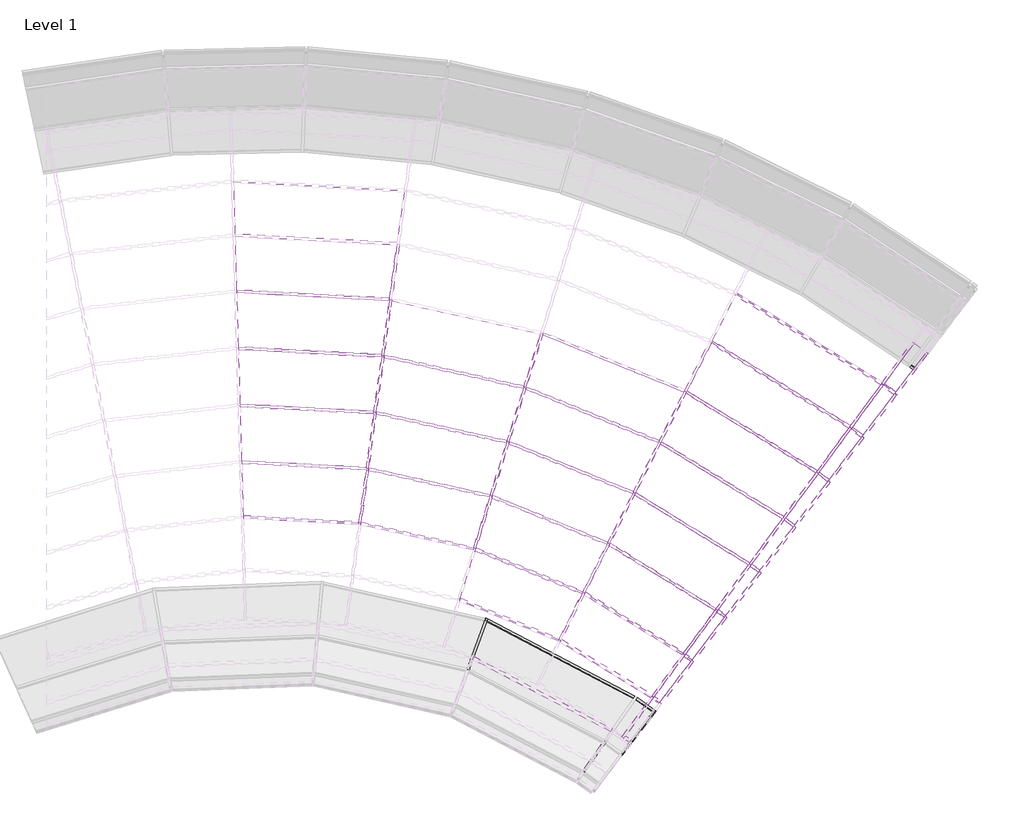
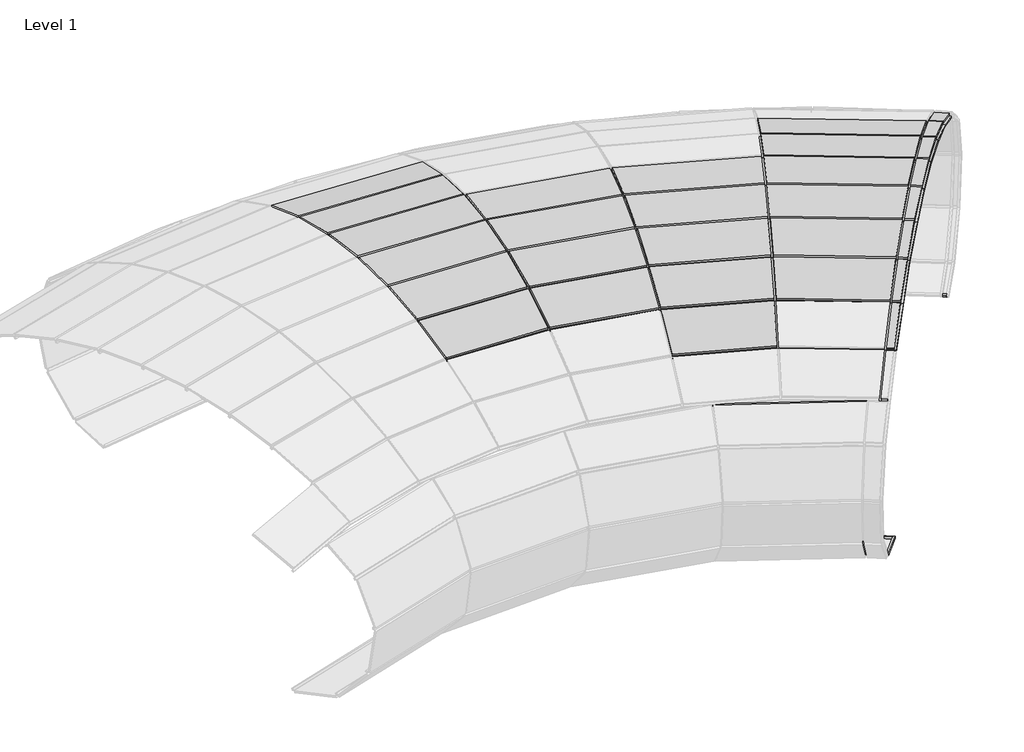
# One storey, part 11 of 23: 71 members, 29 plates.
"""IFC4 building model written with IfcOpenShell, lengths in millimetres."""

from ifc_helpers import new_model, si_unit, origin, place, context, project, spatial, transform, mapped, element, save
from components import member_d6b8231b, member_98341453, member_bff08ed3, member_9d0ecc57, member_8c9da58c, member_3a0dd7d7, member_3a6df916, member_eca8a4a2, member_088ab3f2, member_173a6c74, member_3142c306, member_0cd36c09, member_d0a40a1c, member_d0141056, member_eb56ffe8, member_dc232313, member_20936006, member_c628317b, member_691cbd0a, member_e4cc2466, member_6de91377, member_1afcac62, member_1c681369, member_9272082a, member_20199af6, member_5b501c0e, member_9a5219bf, member_20c667eb, member_7149052c, member_86ced42f, member_955aa5bb, member_c28afb9a, system_panel_glazed_aeac0244, system_panel_glazed_e7caa36a, system_panel_glazed_1a4c8fcb, system_panel_glazed_6f3b0dd0, system_panel_glazed_6963cb6b, system_panel_glazed_a0f8dd0e, system_panel_glazed_079fee55, system_panel_glazed_3a908c5d, system_panel_glazed_1b2c1e4f, system_panel_glazed_4f238078, system_panel_glazed_33c7ebbf, system_panel_glazed_cdef6847, system_panel_glazed_ea272296, system_panel_glazed_992b1f32, system_panel_glazed_8389d453

model = new_model("IFC4")

# Units and contexts
model_context = context("Model", 3, world=origin())
ifc_project = project(units=[si_unit("LENGTHUNIT", "METRE", prefix="MILLI")], contexts=[model_context])

# Site, building, storey
site = spatial("IfcSite", under=ifc_project)
building = spatial("IfcBuilding", under=site)
storey = spatial("IfcBuildingStorey", under=building, Name="Level 1", Elevation=0.0)

# Members
placement = place(None, origin())
member_shape = member_d6b8231b(model_context)
element("IfcMember", 1, ObjectType="Rectangular Mullion : 1\" Square", at=placement, inside=storey, context=model_context, shape_type="MappedRepresentation", body=[
    mapped(member_shape, transform((2290.2556299, -6685.0031769, 0.0), x_axis=(0.9387056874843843, -0.34471964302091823, 0.0), y_axis=(-0.0966241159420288, -0.2631170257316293, -0.9599131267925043), z_axis=(0.33090091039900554, 0.9010759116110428, -0.28029767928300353))),
])
member_2_shape = member_98341453(model_context)
element("IfcMember", 2, ObjectType="Rectangular Mullion : 1\" Square", at=placement, inside=storey, context=model_context, shape_type="MappedRepresentation", body=[
    mapped(member_2_shape, transform((4094.9824837, -7673.8564252, 0.0), x_axis=(0.7966275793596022, -0.6044494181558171, 0.00503991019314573), y_axis=(-0.16557604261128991, -0.22622281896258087, -0.9598998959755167), z_axis=(0.581351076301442, 0.7638482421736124, -0.28029767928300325))),
])
member_3_shape = member_bff08ed3(model_context)
element("IfcMember", 3, ObjectType="Rectangular Mullion : 1\" Square", at=placement, inside=storey, context=model_context, shape_type="MappedRepresentation", body=[
    mapped(member_3_shape, transform((2301.5056599, -6690.896124, 0.0), x_axis=(0.445109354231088, 0.8497435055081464, -0.28251307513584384), y_axis=(-0.1310893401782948, -0.25025831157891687, -0.9592634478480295), z_axis=(-0.8858291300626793, 0.46401158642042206, 0.0))),
])
member_4_shape = member_9d0ecc57(model_context)
element("IfcMember", 4, ObjectType="Rectangular Mullion : 1\" Square", at=placement, inside=storey, context=model_context, shape_type="MappedRepresentation", body=[
    mapped(member_4_shape, transform((3896.1567783, -7528.3327614, 0.0), x_axis=(0.5669356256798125, 0.7745913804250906, -0.28034298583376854), y_axis=(-0.16557604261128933, -0.2262228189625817, -0.9598998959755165), z_axis=(-0.8069501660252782, 0.5906195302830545, 0.0))),
])
member_5_shape = member_8c9da58c(model_context)
element("IfcMember", 5, ObjectType="Rectangular Mullion : 1\" Square", at=placement, inside=storey, context=model_context, shape_type="MappedRepresentation", body=[
    mapped(member_5_shape, transform((3549.2039194, -7999.4191933, 170.8694653), x_axis=(0.817870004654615, -0.5754030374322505, 0.0), y_axis=(-0.43316610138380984, -0.6156963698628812, -0.6582439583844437), z_axis=(0.37875557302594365, 0.538357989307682, -0.7528046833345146))),
])
member_6_shape = member_3a0dd7d7(model_context)
element("IfcMember", 6, ObjectType="Rectangular Mullion : 1\" Square", at=placement, inside=storey, context=model_context, shape_type="MappedRepresentation", body=[
    mapped(member_6_shape, transform((3626.4458114, -7867.7450391, 2085.6089632), x_axis=(0.37150658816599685, 0.7092309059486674, 0.5991447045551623), y_axis=(-0.2780100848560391, -0.5307398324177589, 0.8006407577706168), z_axis=(0.8858291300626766, -0.4640115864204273, 0.0))),
])
member_7_shape = member_3a6df916(model_context)
element("IfcMember", 7, ObjectType="Rectangular Mullion : 1\" Square", at=placement, inside=storey, context=model_context, shape_type="MappedRepresentation", body=[
    mapped(member_7_shape, transform((2325.1422191, -5370.4577997, 2763.3769688), x_axis=(0.21296612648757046, 0.956219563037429, 0.20072263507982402), y_axis=(-0.04363518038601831, -0.19592229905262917, 0.9796481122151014), z_axis=(0.9760847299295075, -0.21739043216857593, 0.0))),
])
element("IfcMember", 8, ObjectType="Rectangular Mullion : 1\" Square", at=placement, inside=storey, context=model_context, shape_type="MappedRepresentation", body=[
    mapped(member_7_shape, transform((3580.451597, -5876.7686495, 2763.3769688), x_axis=(0.3678494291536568, 0.9079632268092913, 0.20072263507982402), y_axis=(-0.07536962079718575, -0.18603493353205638, 0.9796481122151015), z_axis=(0.9268258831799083, -0.3754913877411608, 0.0))),
])
element("IfcMember", 9, ObjectType="Rectangular Mullion : 1\" Square", at=placement, inside=storey, context=model_context, shape_type="MappedRepresentation", body=[
    mapped(member_7_shape, transform((4734.9935766, -6583.2989946, 2763.3769688), x_axis=(0.5126454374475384, 0.8348084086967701, 0.2007226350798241), y_axis=(-0.105037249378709, -0.1710460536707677, 0.9796481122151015), z_axis=(0.8521512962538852, -0.523295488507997, 0.0))),
])
element("IfcMember", 10, ObjectType="Rectangular Mullion : 1\" Square", at=placement, inside=storey, context=model_context, shape_type="MappedRepresentation", body=[
    mapped(member_7_shape, transform((1003.4889711, -5078.2506764, 2763.3769688), x_axis=(0.05224279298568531, 0.9782541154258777, 0.20072263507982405), y_axis=(-0.010704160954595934, -0.20043701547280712, 0.9796481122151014), z_axis=(0.9985770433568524, -0.05332812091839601, 0.0))),
])
member_8_shape = member_eca8a4a2(model_context)
element("IfcMember", 11, ObjectType="Rectangular Mullion : 1\" Square", at=placement, inside=storey, context=model_context, shape_type="MappedRepresentation", body=[
    mapped(member_8_shape, transform((4836.4355375, -6657.7087757, 2763.3769688), x_axis=(0.5866174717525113, 0.7844743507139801, 0.20119625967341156), y_axis=(-0.12048912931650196, -0.1611282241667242, 0.9795509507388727), z_axis=(0.8008509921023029, -0.5988636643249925, 0.0))),
])
member_9_shape = member_088ab3f2(model_context)
element("IfcMember", 12, ObjectType="Rectangular Mullion : 1\" Square", at=placement, inside=storey, context=model_context, shape_type="MappedRepresentation", body=[
    mapped(member_9_shape, transform((1085.4446195, -4480.4538718, 2850.17796), x_axis=(0.053143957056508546, 0.995128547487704, 0.08303549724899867), y_axis=(-0.004428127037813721, -0.08291734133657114, 0.996546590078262), z_axis=(0.9985770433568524, -0.05332812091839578, 0.0))),
])
element("IfcMember", 13, ObjectType="Rectangular Mullion : 1\" Square", at=placement, inside=storey, context=model_context, shape_type="MappedRepresentation", body=[
    mapped(member_9_shape, transform((2504.6275681, -4794.3824943, 2850.17796), x_axis=(0.2166396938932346, 0.9727139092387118, 0.08303549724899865), y_axis=(-0.01805112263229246, -0.08104968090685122, 0.996546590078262), z_axis=(0.9760847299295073, -0.21739043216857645, 0.0))),
])
element("IfcMember", 14, ObjectType="Rectangular Mullion : 1\" Square", at=placement, inside=storey, context=model_context, shape_type="MappedRepresentation", body=[
    mapped(member_9_shape, transform((3852.5447372, -5338.2121799, 2850.17796), x_axis=(0.3741946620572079, 0.9236251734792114, 0.08303549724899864), y_axis=(-0.03117911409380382, -0.07695944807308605, 0.9965465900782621), z_axis=(0.9268258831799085, -0.3754913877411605, 0.0))),
])
element("IfcMember", 15, ObjectType="Rectangular Mullion : 1\" Square", at=placement, inside=storey, context=model_context, shape_type="MappedRepresentation", body=[
    mapped(member_9_shape, transform((5092.2330757, -6097.0298425, 2850.17796), x_axis=(0.5214883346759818, 0.8492084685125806, 0.08303549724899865), y_axis=(-0.043452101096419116, -0.07075880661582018, 0.996546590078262), z_axis=(0.8521512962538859, -0.5232954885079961, 0.0))),
])
member_10_shape = member_173a6c74(model_context)
element("IfcMember", 16, ObjectType="Rectangular Mullion : 1\" Square", at=placement, inside=storey, context=model_context, shape_type="MappedRepresentation", body=[
    mapped(member_10_shape, transform((5958.7937864, -5224.9592865, 2806.2019711), x_axis=(0.7959799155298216, -0.6053204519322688, 0.0017676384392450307), y_axis=(0.12786350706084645, 0.17098986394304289, 0.9769408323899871), z_axis=(-0.5916645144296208, -0.7773992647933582, 0.21350289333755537))),
])
element("IfcMember", 17, ObjectType="Rectangular Mullion : 1\" Square", at=placement, inside=storey, context=model_context, shape_type="MappedRepresentation", body=[
    mapped(member_10_shape, transform((6319.4724744, -4751.0566947, 2676.0506073), x_axis=(0.7962973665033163, -0.6048996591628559, 0.0026280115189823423), y_axis=(0.19661369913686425, 0.26292841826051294, 0.9445695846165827), z_axis=(-0.5720607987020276, -0.7516415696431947, 0.32830076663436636))),
])
member_11_shape = member_3142c306(model_context)
element("IfcMember", 18, ObjectType="Rectangular Mullion : 1\" Square", at=placement, inside=storey, context=model_context, shape_type="MappedRepresentation", body=[
    mapped(member_11_shape, transform((6668.2007373, -4292.8559938, 2475.91846), x_axis=(0.7967283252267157, -0.6043284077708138, 0.0033393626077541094), y_axis=(0.26256629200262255, 0.35112578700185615, 0.8987600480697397), z_axis=(-0.544318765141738, -0.7151907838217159, 0.43842812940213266))),
])
member_12_shape = member_0cd36c09(model_context)
element("IfcMember", 19, ObjectType="Rectangular Mullion : 1\" Square", at=placement, inside=storey, context=model_context, shape_type="MappedRepresentation", body=[
    mapped(member_12_shape, transform((1263.3224971, -3276.1670819, 2806.2019711), x_axis=(0.9907327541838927, -0.13582565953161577, 0.0), y_axis=(0.02899917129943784, 0.21152430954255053, 0.9769424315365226), z_axis=(-0.1326938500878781, -0.9678888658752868, 0.2135028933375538))),
])
element("IfcMember", 20, ObjectType="Rectangular Mullion : 1\" Square", at=placement, inside=storey, context=model_context, shape_type="MappedRepresentation", body=[
    mapped(member_12_shape, transform((4412.7667584, -4257.426124, 2806.2019711), x_axis=(0.8925533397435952, -0.4509418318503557, 0.0), y_axis=(0.09627738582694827, 0.19056272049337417, 0.9769424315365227), z_axis=(-0.4405442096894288, -0.8719732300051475, 0.21350289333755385))),
])
element("IfcMember", 21, ObjectType="Rectangular Mullion : 1\" Square", at=placement, inside=storey, context=model_context, shape_type="MappedRepresentation", body=[
    mapped(member_12_shape, transform((5823.1341142, -5123.5151362, 2806.2019711), x_axis=(0.8058972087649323, -0.5920554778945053, 0.0), y_axis=(0.1264055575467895, 0.1720613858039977, 0.9769424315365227), z_axis=(-0.5784041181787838, -0.787315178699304, 0.2135028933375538))),
])
element("IfcMember", 22, ObjectType="Rectangular Mullion : 1\" Square", at=placement, inside=storey, context=model_context, shape_type="MappedRepresentation", body=[
    mapped(member_12_shape, transform((6175.7292646, -4643.5678033, 2676.0506073), x_axis=(0.8058972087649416, -0.5920554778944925, 0.0), y_axis=(0.1943722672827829, 0.264576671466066, 0.9445732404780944), z_axis=(-0.5592397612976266, -0.7612289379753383, 0.3283007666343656))),
])
member_13_shape = member_d0a40a1c(model_context)
element("IfcMember", 23, ObjectType="Rectangular Mullion : 1\" Square", at=placement, inside=storey, context=model_context, shape_type="MappedRepresentation", body=[
    mapped(member_13_shape, transform((6516.6418231, -4179.5226427, 2475.91846), x_axis=(0.805897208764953, -0.5920554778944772, 0.0), y_axis=(0.2595737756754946, 0.3533280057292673, 0.8987662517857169), z_axis=(-0.5321194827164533, -0.7243132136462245, 0.4384281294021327))),
])
element("IfcMember", 24, ObjectType="Rectangular Mullion : 1\" Square", at=placement, inside=storey, context=model_context, shape_type="MappedRepresentation", body=[
    mapped(member_12_shape, transform((936.20193, -5662.2336142, 2605.3528615), x_axis=(0.9907327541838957, -0.13582565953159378, 0.0), y_axis=(-0.035209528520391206, -0.2568235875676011, 0.9658167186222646), z_axis=(-0.13118269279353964, -0.9568662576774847, -0.259225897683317))),
])
element("IfcMember", 25, ObjectType="Rectangular Mullion : 1\" Square", at=placement, inside=storey, context=model_context, shape_type="MappedRepresentation", body=[
    mapped(member_12_shape, transform((1016.1708995, -5078.9279436, 2763.3769688), x_axis=(0.9907327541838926, -0.13582565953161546, 0.0), y_axis=(-0.01934022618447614, -0.1410705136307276, 0.9898106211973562), z_axis=(-0.13444168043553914, -0.980637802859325, -0.1423900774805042))),
])
element("IfcMember", 26, ObjectType="Rectangular Mullion : 1\" Square", at=placement, inside=storey, context=model_context, shape_type="MappedRepresentation", body=[
    mapped(member_12_shape, transform((2162.404033, -5935.3293783, 2605.3528615), x_axis=(0.9547335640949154, -0.29746230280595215, 0.0), y_axis=(-0.07710993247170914, -0.24749166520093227, 0.9658167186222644), z_axis=(-0.2872940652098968, -0.9220976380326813, -0.2592258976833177))),
])
element("IfcMember", 27, ObjectType="Rectangular Mullion : 1\" Square", at=placement, inside=storey, context=model_context, shape_type="MappedRepresentation", body=[
    mapped(member_12_shape, transform((2337.5384952, -5373.2186582, 2763.3769688), x_axis=(0.954733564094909, -0.2974623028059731, 0.0), y_axis=(-0.042355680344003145, -0.1359445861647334, 0.9898106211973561), z_axis=(-0.29443134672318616, -0.9450054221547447, -0.14239007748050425))),
])
element("IfcMember", 28, ObjectType="Rectangular Mullion : 1\" Square", at=placement, inside=storey, context=model_context, shape_type="MappedRepresentation", body=[
    mapped(member_12_shape, transform((3071.6004045, -6912.0090964, 2378.3537392), x_axis=(0.8925533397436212, -0.450941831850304, 0.0), y_axis=(-0.1679189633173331, -0.33236355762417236, 0.9280828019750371), z_axis=(-0.4185113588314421, -0.828363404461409, -0.37237388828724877))),
])
element("IfcMember", 29, ObjectType="Rectangular Mullion : 1\" Square", at=placement, inside=storey, context=model_context, shape_type="MappedRepresentation", body=[
    mapped(member_12_shape, transform((3326.7249288, -6407.038765, 2605.3528615), x_axis=(0.8925533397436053, -0.4509418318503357, 0.0), y_axis=(-0.11689580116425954, -0.2313729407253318, 0.9658167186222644), z_axis=(-0.4355271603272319, -0.8620429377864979, -0.2592258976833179))),
])
element("IfcMember", 30, ObjectType="Rectangular Mullion : 1\" Square", at=placement, inside=storey, context=model_context, shape_type="MappedRepresentation", body=[
    mapped(member_12_shape, transform((3592.2222858, -5881.5373901, 2763.3769688), x_axis=(0.8925533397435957, -0.45094183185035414, 0.0), y_axis=(-0.06420964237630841, -0.12709073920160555, 0.9898106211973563), z_axis=(-0.44634701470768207, -0.8834587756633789, -0.142390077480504))),
])
element("IfcMember", 31, ObjectType="Rectangular Mullion : 1\" Square", at=placement, inside=storey, context=model_context, shape_type="MappedRepresentation", body=[
    mapped(member_12_shape, transform((4062.2753281, -7520.3702177, 2378.3537392), x_axis=(0.8058972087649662, -0.5920554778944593, 0.0), y_axis=(-0.2204660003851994, -0.300095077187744, 0.9280828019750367), z_axis=(-0.5494765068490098, -0.7479393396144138, -0.37237388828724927))),
])
element("IfcMember", 32, ObjectType="Rectangular Mullion : 1\" Square", at=placement, inside=storey, context=model_context, shape_type="MappedRepresentation", body=[
    mapped(member_12_shape, transform((4397.2362067, -7064.4263963, 2605.3528615), x_axis=(0.8058972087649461, -0.5920554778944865, 0.0), y_axis=(-0.15347611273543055, -0.20890942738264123, 0.9658167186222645), z_axis=(-0.5718170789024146, -0.778348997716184, -0.2592258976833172))),
])
element("IfcMember", 33, ObjectType="Rectangular Mullion : 1\" Square", at=placement, inside=storey, context=model_context, shape_type="MappedRepresentation", body=[
    mapped(member_12_shape, transform((4745.815898, -6589.9448473, 2763.3769688), x_axis=(0.8058972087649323, -0.5920554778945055, 0.0), y_axis=(-0.08430282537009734, -0.11475176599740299, 0.9898106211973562), z_axis=(-0.5860228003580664, -0.797685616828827, -0.14239007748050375))),
])
element("IfcMember", 34, ObjectType="Rectangular Mullion : 1\" Square", at=placement, inside=storey, context=model_context, shape_type="MappedRepresentation", body=[
    mapped(member_12_shape, transform((1098.1265479, -4481.1311389, 2850.17796), x_axis=(0.9907327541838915, -0.13582565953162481, 0.0), y_axis=(-0.0031957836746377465, -0.02331052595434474, 0.9997231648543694), z_axis=(-0.1357880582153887, -0.9904584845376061, -0.023528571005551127))),
])
element("IfcMember", 35, ObjectType="Rectangular Mullion : 1\" Square", at=placement, inside=storey, context=model_context, shape_type="MappedRepresentation", body=[
    mapped(member_12_shape, transform((2517.0238442, -4797.1433528, 2850.17796), x_axis=(0.9547335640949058, -0.29746230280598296, 0.0), y_axis=(-0.006998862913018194, -0.02246351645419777, 0.9997231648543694), z_axis=(-0.29737995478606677, -0.9544692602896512, -0.023528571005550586))),
])
element("IfcMember", 36, ObjectType="Rectangular Mullion : 1\" Square", at=placement, inside=storey, context=model_context, shape_type="MappedRepresentation", body=[
    mapped(member_12_shape, transform((3864.3154259, -5342.9809205, 2850.17796), x_axis=(0.892553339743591, -0.4509418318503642, 0.0), y_axis=(-0.010610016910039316, -0.021000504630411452, 0.9997231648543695), z_axis=(-0.4508169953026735, -0.8923062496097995, -0.023528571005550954))),
])
element("IfcMember", 37, ObjectType="Rectangular Mullion : 1\" Square", at=placement, inside=storey, context=model_context, shape_type="MappedRepresentation", body=[
    mapped(member_12_shape, transform((5103.0553971, -6103.6756952, 2850.17796), x_axis=(0.805897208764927, -0.5920554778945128, 0.0), y_axis=(-0.013930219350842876, -0.01896160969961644, 0.9997231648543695), z_axis=(-0.5918915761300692, -0.8056741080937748, -0.02352857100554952))),
])
element("IfcMember", 38, ObjectType="Rectangular Mullion : 1\" Square", at=placement, inside=storey, context=model_context, shape_type="MappedRepresentation", body=[
    mapped(member_12_shape, transform((1180.9029482, -3877.3476468, 2864.5209769), x_axis=(0.9907327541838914, -0.1358256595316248, 0.0), y_axis=(0.012994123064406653, 0.09478108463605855, 0.9954133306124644), z_axis=(-0.13520267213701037, -0.9861885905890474, 0.09566766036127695))),
])
element("IfcMember", 39, ObjectType="Rectangular Mullion : 1\" Square", at=placement, inside=storey, context=model_context, shape_type="MappedRepresentation", body=[
    mapped(member_12_shape, transform((2698.3066646, -4215.2988917, 2864.5209769), x_axis=(0.9547335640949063, -0.2974623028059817, 0.0), y_axis=(0.028457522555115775, 0.09133712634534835, 0.9954133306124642), z_axis=(-0.2960979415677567, -0.950354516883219, 0.0956676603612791))),
])
element("IfcMember", 40, ObjectType="Rectangular Mullion : 1\" Square", at=placement, inside=storey, context=model_context, shape_type="MappedRepresentation", body=[
    mapped(member_12_shape, transform((4139.1334663, -4799.0310307, 2864.5209769), x_axis=(0.8925533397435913, -0.45094183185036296, 0.0), y_axis=(0.043140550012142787, 0.08538848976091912, 0.9954133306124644), z_axis=(-0.4488735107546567, -0.8884594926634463, 0.09566766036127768))),
])
element("IfcMember", 41, ObjectType="Rectangular Mullion : 1\" Square", at=placement, inside=storey, context=model_context, shape_type="MappedRepresentation", body=[
    mapped(member_12_shape, transform((5463.8725019, -5612.5367589, 2864.5209769), x_axis=(0.8058972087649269, -0.5920554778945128, 0.0), y_axis=(0.05664056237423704, 0.07709830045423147, 0.9954133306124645), z_axis=(-0.5893399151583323, -0.8022008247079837, 0.0956676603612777))),
])
member_14_shape = member_d0141056(model_context)
element("IfcMember", 42, ObjectType="Rectangular Mullion : 1\" Square", at=placement, inside=storey, context=model_context, shape_type="MappedRepresentation", body=[
    mapped(member_14_shape, transform((923.5200016, -5661.5563471, 2605.3528615), x_axis=(0.05060252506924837, 0.94753985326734, 0.31560673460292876), y_axis=(-0.01683071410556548, -0.3151576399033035, 0.9488900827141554), z_axis=(0.9985770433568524, -0.05332812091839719, 0.0))),
])
element("IfcMember", 43, ObjectType="Rectangular Mullion : 1\" Square", at=placement, inside=storey, context=model_context, shape_type="MappedRepresentation", body=[
    mapped(member_14_shape, transform((2150.007757, -5932.5685198, 2605.3528615), x_axis=(0.206279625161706, 0.9261971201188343, 0.3156067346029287), y_axis=(-0.06860988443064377, -0.30805891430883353, 0.9488900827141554), z_axis=(0.9760847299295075, -0.21739043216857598, 0.0))),
])
element("IfcMember", 44, ObjectType="Rectangular Mullion : 1\" Square", at=placement, inside=storey, context=model_context, shape_type="MappedRepresentation", body=[
    mapped(member_14_shape, transform((3314.9542401, -6402.2700244, 2605.3528615), x_axis=(0.35630005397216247, 0.8794558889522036, 0.3156067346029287), y_axis=(-0.11850761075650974, -0.29251249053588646, 0.9488900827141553), z_axis=(0.9268258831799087, -0.3754913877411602, 0.0))),
])
element("IfcMember", 45, ObjectType="Rectangular Mullion : 1\" Square", at=placement, inside=storey, context=model_context, shape_type="MappedRepresentation", body=[
    mapped(member_14_shape, transform((4386.4138853, -7057.7805436, 2605.3528615), x_axis=(0.4965498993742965, 0.8085979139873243, 0.31560673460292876), y_axis=(-0.16515558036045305, -0.2689446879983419, 0.9488900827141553), z_axis=(0.8521512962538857, -0.5232954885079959, 0.0))),
])
member_15_shape = member_eb56ffe8(model_context)
element("IfcMember", 46, ObjectType="Rectangular Mullion : 1\" Square", at=placement, inside=storey, context=model_context, shape_type="MappedRepresentation", body=[
    mapped(member_15_shape, transform((4137.2242306, -7576.4158177, 2378.3537392), x_axis=(0.5415001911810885, 0.7241397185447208, 0.4270822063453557), y_axis=(-0.2557640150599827, -0.34202920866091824, 0.9042128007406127), z_axis=(0.8008509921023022, -0.5988636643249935, 0.0))),
])
member_16_shape = member_dc232313(model_context)
element("IfcMember", 47, ObjectType="Rectangular Mullion : 1\" Square", at=placement, inside=storey, context=model_context, shape_type="MappedRepresentation", body=[
    mapped(member_16_shape, transform((4051.4530067, -7513.724365, 2378.3537392), x_axis=(0.4734185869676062, 0.770930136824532, 0.42607694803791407), y_axis=(-0.22296414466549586, -0.36308202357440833, 0.9046869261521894), z_axis=(0.8521512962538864, -0.5232954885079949, 0.0))),
])
element("IfcMember", 48, ObjectType="Rectangular Mullion : 1\" Square", at=placement, inside=storey, context=model_context, shape_type="MappedRepresentation", body=[
    mapped(member_16_shape, transform((3059.8297158, -6907.2403557, 2378.3537392), x_axis=(0.3397021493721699, 0.8384872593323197, 0.42607694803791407), y_axis=(-0.1599882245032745, -0.39489914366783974, 0.9046869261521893), z_axis=(0.9268258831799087, -0.37549138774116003, 0.0))),
])
member_17_shape = member_20936006(model_context)
element("IfcMember", 49, ObjectType="Rectangular Mullion : 1\" Square", at=placement, inside=storey, context=model_context, shape_type="MappedRepresentation", body=[
    mapped(member_17_shape, transform((5201.8650497, -6177.5639856, 2850.17796), x_axis=(0.5967902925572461, 0.7980783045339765, 0.08314064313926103), y_axis=(-0.04978991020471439, -0.06658326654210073, 0.9965378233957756), z_axis=(0.800850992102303, -0.5988636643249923, 0.0))),
])
member_18_shape = member_c628317b(model_context)
element("IfcMember", 50, ObjectType="Rectangular Mullion : 1\" Square", at=placement, inside=storey, context=model_context, shape_type="MappedRepresentation", body=[
    mapped(member_18_shape, transform((1168.2210198, -3876.6703796, 2864.5209769), x_axis=(0.05329391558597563, 0.997936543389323, -0.03581080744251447), y_axis=(0.001909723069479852, 0.035759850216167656, 0.9993585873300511), z_axis=(0.9985770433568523, -0.05332812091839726, 0.0))),
])
element("IfcMember", 51, ObjectType="Rectangular Mullion : 1\" Square", at=placement, inside=storey, context=model_context, shape_type="MappedRepresentation", body=[
    mapped(member_18_shape, transform((2685.9103885, -4212.5380333, 2864.5209769), x_axis=(0.2172509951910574, 0.9754586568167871, -0.03581080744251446), y_axis=(0.007784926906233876, 0.03495438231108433, 0.999358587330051), z_axis=(0.9760847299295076, -0.21739043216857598, 0.0))),
])
element("IfcMember", 52, ObjectType="Rectangular Mullion : 1\" Square", at=placement, inside=storey, context=model_context, shape_type="MappedRepresentation", body=[
    mapped(member_18_shape, transform((4127.3627775, -4794.2622901, 2864.5209769), x_axis=(0.375250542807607, 0.9262314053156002, -0.03581080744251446), y_axis=(0.013446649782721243, 0.0331903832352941, 0.999358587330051), z_axis=(0.9268258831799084, -0.37549138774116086, 0.0))),
])
element("IfcMember", 53, ObjectType="Rectangular Mullion : 1\" Square", at=placement, inside=storey, context=model_context, shape_type="MappedRepresentation", body=[
    mapped(member_18_shape, transform((5453.0501805, -5605.8909062, 2864.5209769), x_axis=(0.5229598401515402, 0.8516047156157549, -0.03581080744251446), y_axis=(0.018739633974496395, 0.03051622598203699, 0.999358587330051), z_axis=(0.8521512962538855, -0.5232954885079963, 0.0))),
])
member_19_shape = member_691cbd0a(model_context)
element("IfcMember", 54, ObjectType="Rectangular Mullion : 1\" Square", at=placement, inside=storey, context=model_context, shape_type="MappedRepresentation", body=[
    mapped(member_19_shape, transform((5570.9541872, -5692.6107441, 2864.5209769), x_axis=(0.5984733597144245, 0.800329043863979, -0.036097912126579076), y_axis=(0.021617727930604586, 0.02890904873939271, 0.9993482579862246), z_axis=(0.8008509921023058, -0.5988636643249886, 0.0))),
])
member_20_shape = member_e4cc2466(model_context)
element("IfcMember", 55, ObjectType="Rectangular Mullion : 1\" Square", at=placement, inside=storey, context=model_context, shape_type="MappedRepresentation", body=[
    mapped(member_20_shape, transform((3745.6985217, -7951.2899105, 2085.6089632), x_axis=(0.8058972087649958, -0.5920554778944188, 0.0), y_axis=(-0.284319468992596, -0.3870114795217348, 0.8771456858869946), z_axis=(-0.5193189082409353, -0.7068892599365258, -0.4802243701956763))),
])
member_21_shape = member_6de91377(model_context)
element("IfcMember", 56, ObjectType="Rectangular Mullion : 1\" Square", at=placement, inside=storey, context=model_context, shape_type="MappedRepresentation", body=[
    mapped(member_21_shape, transform((1250.6405687, -3275.4898148, 2806.2019711), x_axis=(0.052690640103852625, 0.9866401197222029, -0.1541589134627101), y_axis=(0.008221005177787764, 0.15393955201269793, 0.9880460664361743), z_axis=(0.9985770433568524, -0.053328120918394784, 0.0))),
])
element("IfcMember", 57, ObjectType="Rectangular Mullion : 1\" Square", at=placement, inside=storey, context=model_context, shape_type="MappedRepresentation", body=[
    mapped(member_21_shape, transform((4400.9960697, -4252.6573834, 2806.2019711), x_axis=(0.3710027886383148, 0.9157466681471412, -0.1541589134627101), y_axis=(0.05788534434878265, 0.14287847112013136, 0.9880460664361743), z_axis=(0.9268258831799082, -0.3754913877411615, 0.0))),
])
element("IfcMember", 58, ObjectType="Rectangular Mullion : 1\" Square", at=placement, inside=storey, context=model_context, shape_type="MappedRepresentation", body=[
    mapped(member_21_shape, transform((5812.3117927, -5116.8692835, 2806.2019711), x_axis=(0.5170400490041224, 0.8419647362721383, -0.15415891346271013), y_axis=(0.0806706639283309, 0.13136671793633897, 0.9880460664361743), z_axis=(0.8521512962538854, -0.5232954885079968, 0.0))),
])
member_22_shape = member_1afcac62(model_context)
element("IfcMember", 59, ObjectType="Rectangular Mullion : 1\" Square", at=placement, inside=storey, context=model_context, shape_type="MappedRepresentation", body=[
    mapped(member_22_shape, transform((5938.4521712, -5209.7481494, 2806.2019711), x_axis=(0.5916426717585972, 0.7911944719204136, -0.15482330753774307), y_axis=(0.09271805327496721, 0.1239903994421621, 0.9879421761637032), z_axis=(0.8008509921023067, -0.598863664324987, 0.0))),
])
member_23_shape = member_1c681369(model_context)
element("IfcMember", 60, ObjectType="Rectangular Mullion : 1\" Square", at=placement, inside=storey, context=model_context, shape_type="MappedRepresentation", body=[
    mapped(member_23_shape, transform((6164.9069432, -4636.9219506, 2676.0506073), x_axis=(0.5038079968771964, 0.8204172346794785, -0.27035728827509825), y_axis=(0.14147674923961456, 0.2303853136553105, 0.9627600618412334), z_axis=(0.852151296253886, -0.5232954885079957, 0.0))),
])
member_24_shape = member_9272082a(model_context)
element("IfcMember", 61, ObjectType="Rectangular Mullion : 1\" Square", at=placement, inside=storey, context=model_context, shape_type="MappedRepresentation", body=[
    mapped(member_24_shape, transform((6299.1308592, -4735.8455576, 2676.0506073), x_axis=(0.5763952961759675, 0.7708043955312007, -0.2713467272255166), y_axis=(0.16249969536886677, 0.21730829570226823, 0.9624816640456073), z_axis=(0.8008509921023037, -0.5988636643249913, 0.0))),
])
member_25_shape = member_20199af6(model_context)
element("IfcMember", 62, ObjectType="Rectangular Mullion : 1\" Square", at=placement, inside=storey, context=model_context, shape_type="MappedRepresentation", body=[
    mapped(member_25_shape, transform((6505.8195017, -4172.87679, 2475.91846), x_axis=(0.4834411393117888, 0.7872511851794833, -0.3827796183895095), y_axis=(0.20030684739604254, 0.32618614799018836, 0.9238396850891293), z_axis=(0.852151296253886, -0.5232954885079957, 0.0))),
])
member_26_shape = member_5b501c0e(model_context)
element("IfcMember", 63, ObjectType="Rectangular Mullion : 1\" Square", at=placement, inside=storey, context=model_context, shape_type="MappedRepresentation", body=[
    mapped(member_26_shape, transform((6647.8591221, -4277.6448567, 2475.91846), x_axis=(0.5529479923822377, 0.7394486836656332, -0.38401062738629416), y_axis=(0.2299700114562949, 0.30753529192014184, 0.9233286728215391), z_axis=(0.8008509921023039, -0.598863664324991, 0.0))),
])
member_27_shape = member_9a5219bf(model_context)
element("IfcMember", 64, ObjectType="Rectangular Mullion : 1\" Square", at=placement, inside=storey, context=model_context, shape_type="MappedRepresentation", body=[
    mapped(member_27_shape, transform((4157.5658458, -7591.6269548, 2378.3537392), x_axis=(0.7964549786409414, -0.6046907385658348, -0.0029287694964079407), y_axis=(-0.22300808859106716, -0.29822522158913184, 0.9280781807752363), z_axis=(-0.5620737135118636, -0.7385193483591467, -0.37237388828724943))),
])
element("IfcMember", 65, ObjectType="Rectangular Mullion : 1\" Square", at=placement, inside=storey, context=model_context, shape_type="MappedRepresentation", body=[
    mapped(member_27_shape, transform((4500.2059816, -7141.42556, 2605.3528615), x_axis=(0.7960902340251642, -0.6051742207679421, -0.002121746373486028), y_axis=(-0.15524617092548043, -0.2076082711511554, 0.9658143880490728), z_axis=(-0.5849264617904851, -0.7685460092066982, -0.2592258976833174))),
])
element("IfcMember", 66, ObjectType="Rectangular Mullion : 1\" Square", at=placement, inside=storey, context=model_context, shape_type="MappedRepresentation", body=[
    mapped(member_27_shape, transform((4856.7771527, -6672.9199128, 2763.3769688), x_axis=(0.7958507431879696, -0.6054916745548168, -0.0011944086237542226), y_axis=(-0.0852752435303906, -0.11403724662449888, 0.9898099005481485), z_axis=(-0.5994578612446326, -0.7876390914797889, -0.14239007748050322))),
])
member_28_shape = member_20c667eb(model_context)
element("IfcMember", 67, ObjectType="Rectangular Mullion : 1\" Square", at=placement, inside=storey, context=model_context, shape_type="MappedRepresentation", body=[
    mapped(member_28_shape, transform((5222.2066649, -6192.7751226, 2850.17796), x_axis=(0.7957500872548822, -0.6056250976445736, -0.00019934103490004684), y_axis=(-0.014090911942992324, -0.01884355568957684, 0.9997231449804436), z_axis=(-0.6054611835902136, -0.7955269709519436, -0.02352857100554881))),
])
member_29_shape = member_7149052c(model_context)
element("IfcMember", 68, ObjectType="Rectangular Mullion : 1\" Square", at=placement, inside=storey, context=model_context, shape_type="MappedRepresentation", body=[
    mapped(member_29_shape, transform((5591.2958024, -5707.8218811, 2864.5209769), x_axis=(0.7957939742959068, -0.6055669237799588, 0.0008070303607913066), y_axis=(0.0572939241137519, 0.07661826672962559, 0.9954130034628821), z_axis=(-0.6028510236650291, -0.7920974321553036, 0.09566766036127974))),
])
member_30_shape = member_86ced42f(model_context)
element("IfcMember", 69, ObjectType="Rectangular Mullion : 1\" Square", at=placement, inside=storey, context=model_context, shape_type="MappedRepresentation", body=[
    mapped(member_30_shape, transform((4479.8643664, -7126.2144229, 2605.3528615), x_axis=(0.5680996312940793, 0.7597107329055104, 0.316389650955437), y_axis=(-0.18947426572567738, -0.2533809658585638, 0.9486293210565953), z_axis=(0.8008509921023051, -0.5988636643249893, 0.0))),
])
member_31_shape = member_955aa5bb(model_context)
element("IfcMember", 70, ObjectType="Rectangular Mullion : 1\" Square", at=placement, inside=storey, context=model_context, shape_type="MappedRepresentation", body=[
    mapped(member_31_shape, transform((3755.8693293, -7958.8954791, 2085.6089632), x_axis=(-0.5252863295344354, -0.702457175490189, -0.4802376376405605), y_axis=(-0.2875968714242, -0.38459878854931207, 0.8771384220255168), z_axis=(-0.800850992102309, 0.5988636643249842, 0.0))),
])
member_32_shape = member_c28afb9a(model_context)
element("IfcMember", 71, ObjectType="Rectangular Mullion : 1\" Square", at=placement, inside=storey, context=model_context, shape_type="MappedRepresentation", body=[
    mapped(member_32_shape, transform((6843.6513643, -4020.3884594, 0.0), x_axis=(-0.586881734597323, -0.7767931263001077, -0.22839060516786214), y_axis=(0.13767713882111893, 0.18222863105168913, -0.9735695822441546), z_axis=(0.7978814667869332, -0.6028143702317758, 0.0))),
])

# Plates
system_panel_glazed_shape = system_panel_glazed_aeac0244(model_context)
element("IfcPlate", 72, ObjectType="System Panel : Glazed", at=placement, inside=storey, context=model_context, shape_type="MappedRepresentation", body=[
    mapped(system_panel_glazed_shape, transform((2537.2798598, -6682.824973, 2383.0969125), x_axis=(0.926825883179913, -0.3754913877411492, 0.0), y_axis=(0.14023785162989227, 0.34614927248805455, -0.9276389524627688), z_axis=(0.34832043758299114, 0.8597597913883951, 0.3734782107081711))),
])
system_panel_glazed_2_shape = system_panel_glazed_e7caa36a(model_context)
element("IfcPlate", 73, ObjectType="System Panel : Glazed", at=placement, inside=storey, context=model_context, shape_type="MappedRepresentation", body=[
    mapped(system_panel_glazed_2_shape, transform((4111.8935881, -7542.7563797, 2383.0830339), x_axis=(0.8008509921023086, -0.5988636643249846, 0.0), y_axis=(0.22300808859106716, 0.29822522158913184, -0.9280781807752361), z_axis=(0.5557923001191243, 0.7432523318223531, 0.3723854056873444))),
])
system_panel_glazed_3_shape = system_panel_glazed_1a4c8fcb(model_context)
element("IfcPlate", 74, ObjectType="System Panel : Glazed", at=placement, inside=storey, context=model_context, shape_type="MappedRepresentation", body=[
    mapped(system_panel_glazed_3_shape, transform((309.6269084, -5616.4914281, 2608.6556077), x_axis=(0.998577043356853, -0.05332812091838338, 0.0), y_axis=(0.01386844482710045, 0.2596887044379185, -0.9655927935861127), z_axis=(0.05149324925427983, 0.9642187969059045, 0.2600587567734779))),
])
element("IfcPlate", 75, ObjectType="System Panel : Glazed", at=placement, inside=storey, context=model_context, shape_type="MappedRepresentation", body=[
    mapped(system_panel_glazed_3_shape, transform((1551.9688466, -5786.8117414, 2608.6556077), x_axis=(0.97608472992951, -0.2173904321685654, 0.0), y_axis=(0.05653428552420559, 0.25383938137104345, -0.9655927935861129), z_axis=(0.2099106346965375, 0.942500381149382, 0.2600587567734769))),
])
element("IfcPlate", 76, ObjectType="System Panel : Glazed", at=placement, inside=storey, context=model_context, shape_type="MappedRepresentation", body=[
    mapped(system_panel_glazed_3_shape, transform((2749.1691425, -6159.8183795, 2608.6556077), x_axis=(0.9268258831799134, -0.3754913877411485, 0.0), y_axis=(0.09764982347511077, 0.2410291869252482, -0.9655927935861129), z_axis=(0.36257177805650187, 0.894936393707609, 0.2600587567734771))),
])
element("IfcPlate", 77, ObjectType="System Panel : Glazed", at=placement, inside=storey, context=model_context, shape_type="MappedRepresentation", body=[
    mapped(system_panel_glazed_3_shape, transform((3868.3977552, -6725.282625, 2608.6556077), x_axis=(0.8521512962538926, -0.5232954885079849, 0.0), y_axis=(0.13608757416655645, 0.22160940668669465, -0.9655927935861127), z_axis=(0.5052903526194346, 0.8228311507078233, 0.2600587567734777))),
])
system_panel_glazed_4_shape = system_panel_glazed_6f3b0dd0(model_context)
element("IfcPlate", 78, ObjectType="System Panel : Glazed", at=placement, inside=storey, context=model_context, shape_type="MappedRepresentation", body=[
    mapped(system_panel_glazed_4_shape, transform((4450.9810875, -7089.2999542, 2608.6451407), x_axis=(0.800850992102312, -0.5988636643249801, 0.0), y_axis=(0.15524617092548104, 0.20760827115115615, -0.9658143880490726), z_axis=(0.5783911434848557, 0.7734734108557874, 0.25923458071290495))),
])
system_panel_glazed_5_shape = system_panel_glazed_6963cb6b(model_context)
element("IfcPlate", 79, ObjectType="System Panel : Glazed", at=placement, inside=storey, context=model_context, shape_type="MappedRepresentation", body=[
    mapped(system_panel_glazed_5_shape, transform((340.9330182, -5030.2798367, 2765.1914265), x_axis=(0.9985770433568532, -0.053328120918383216, 0.0), y_axis=(0.007619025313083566, 0.14266738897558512, -0.9897413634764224), z_axis=(0.052781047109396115, 0.9883330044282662, 0.1428706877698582))),
])
element("IfcPlate", 80, ObjectType="System Panel : Glazed", at=placement, inside=storey, context=model_context, shape_type="MappedRepresentation", body=[
    mapped(system_panel_glazed_5_shape, transform((1679.5872332, -5213.8041937, 2765.1914265), x_axis=(0.9760847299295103, -0.21739043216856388, 0.0), y_axis=(0.031058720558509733, 0.1394538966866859, -0.9897413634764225), z_axis=(0.21516030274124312, 0.9660714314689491, 0.14287068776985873))),
])
element("IfcPlate", 81, ObjectType="System Panel : Glazed", at=placement, inside=storey, context=model_context, shape_type="MappedRepresentation", body=[
    mapped(system_panel_glazed_5_shape, transform((2969.6002103, -5615.7280866, 2765.1914265), x_axis=(0.9268258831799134, -0.37549138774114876, 0.0), y_axis=(0.05364671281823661, 0.13241625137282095, -0.9897413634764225), z_axis=(0.37163935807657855, 0.9173179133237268, 0.1428706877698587))),
])
element("IfcPlate", 82, ObjectType="System Panel : Glazed", at=placement, inside=storey, context=model_context, shape_type="MappedRepresentation", body=[
    mapped(system_panel_glazed_5_shape, transform((4175.5967672, -6225.0298195, 2765.1914265), x_axis=(0.8521512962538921, -0.5232954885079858, 0.0), y_axis=(0.07476358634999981, 0.12174744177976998, -0.9897413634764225), z_axis=(0.5179271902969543, 0.8434093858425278, 0.14287068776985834))),
])
system_panel_glazed_6_shape = system_panel_glazed_a0f8dd0e(model_context)
element("IfcPlate", 83, ObjectType="System Panel : Glazed", at=placement, inside=storey, context=model_context, shape_type="MappedRepresentation", body=[
    mapped(system_panel_glazed_6_shape, transform((4803.7390097, -6617.5622959, 2765.1853864), x_axis=(0.8008509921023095, -0.5988636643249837, 0.0), y_axis=(0.08527524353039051, 0.11403724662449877, -0.9898099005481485), z_axis=(0.592761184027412, 0.792690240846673, 0.14239508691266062))),
])
system_panel_glazed_7_shape = system_panel_glazed_079fee55(model_context)
element("IfcPlate", 84, ObjectType="System Panel : Glazed", at=placement, inside=storey, context=model_context, shape_type="MappedRepresentation", body=[
    mapped(system_panel_glazed_7_shape, transform((373.0068673, -4429.6922136, 2850.4778018), x_axis=(0.9985770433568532, -0.05332812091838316, 0.0), y_axis=(0.0012590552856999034, 0.02357599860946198, -0.9997212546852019), z_axis=(0.05331325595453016, 0.9982986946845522, 0.023609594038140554))),
])
element("IfcPlate", 85, ObjectType="System Panel : Glazed", at=placement, inside=storey, context=model_context, shape_type="MappedRepresentation", body=[
    mapped(system_panel_glazed_7_shape, transform((1810.335285, -4626.7444252, 2850.4778018), x_axis=(0.97608472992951, -0.21739043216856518, 0.0), y_axis=(0.005132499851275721, 0.023044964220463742, -0.999721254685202), z_axis=(0.21732983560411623, 0.9758126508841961, 0.023609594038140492))),
])
element("IfcPlate", 86, ObjectType="System Panel : Glazed", at=placement, inside=storey, context=model_context, shape_type="MappedRepresentation", body=[
    mapped(system_panel_glazed_7_shape, transform((3195.4370464, -5058.294729, 2850.4778018), x_axis=(0.9268258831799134, -0.3754913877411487, 0.0), y_axis=(0.008865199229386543, 0.0218819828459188, -0.9997212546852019), z_axis=(0.3753867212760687, 0.9265675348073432, 0.02360959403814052))),
])
element("IfcPlate", 87, ObjectType="System Panel : Glazed", at=placement, inside=storey, context=model_context, shape_type="MappedRepresentation", body=[
    mapped(system_panel_glazed_7_shape, transform((4490.3294117, -5712.5090031, 2850.4778018), x_axis=(0.8521512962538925, -0.5232954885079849, 0.0), y_axis=(0.012354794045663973, 0.02011894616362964, -0.999721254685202), z_axis=(0.5231496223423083, 0.8519137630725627, 0.02360959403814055))),
])
system_panel_glazed_8_shape = system_panel_glazed_3a908c5d(model_context)
element("IfcPlate", 88, ObjectType="System Panel : Glazed", at=placement, inside=storey, context=model_context, shape_type="MappedRepresentation", body=[
    mapped(system_panel_glazed_8_shape, transform((5165.1489076, -6134.2544964, 2850.4767836), x_axis=(0.8008509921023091, -0.5988636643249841, 0.0), y_axis=(0.014090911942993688, 0.01884355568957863, -0.9997231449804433), z_axis=(0.5986978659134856, 0.8006292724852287, 0.02352941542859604))),
])
system_panel_glazed_9_shape = system_panel_glazed_1b2c1e4f(model_context)
element("IfcPlate", 89, ObjectType="System Panel : Glazed", at=placement, inside=storey, context=model_context, shape_type="MappedRepresentation", body=[
    mapped(system_panel_glazed_9_shape, transform((405.3921571, -3823.2728174, 2863.3018499), x_axis=(0.9985770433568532, -0.0533281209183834, 0.0), y_axis=(-0.00511919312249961, -0.09585765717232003, -0.9953818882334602), z_axis=(0.053081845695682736, 0.9939655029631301, -0.09599425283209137))),
])
element("IfcPlate", 90, ObjectType="System Panel : Glazed", at=placement, inside=storey, context=model_context, shape_type="MappedRepresentation", body=[
    mapped(system_panel_glazed_9_shape, transform((1942.3529149, -4033.9842406, 2863.3018499), x_axis=(0.9760847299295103, -0.2173904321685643, 0.0), y_axis=(-0.02086823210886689, -0.09369852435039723, -0.9953818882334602), z_axis=(0.21638649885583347, 0.971577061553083, -0.0959942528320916))),
])
element("IfcPlate", 91, ObjectType="System Panel : Glazed", at=placement, inside=storey, context=model_context, shape_type="MappedRepresentation", body=[
    mapped(system_panel_glazed_9_shape, transform((3423.4667835, -4495.4486309, 2863.3018499), x_axis=(0.9268258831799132, -0.3754913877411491, 0.0), y_axis=(-0.03604501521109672, -0.08896995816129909, -0.9953818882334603), z_axis=(0.37375732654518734, 0.9225456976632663, -0.09599425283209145))),
])
element("IfcPlate", 92, ObjectType="System Panel : Glazed", at=placement, inside=storey, context=model_context, shape_type="MappedRepresentation", body=[
    mapped(system_panel_glazed_9_shape, transform((4808.1181455, -5195.0115521, 2863.3018499), x_axis=(0.8521512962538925, -0.5232954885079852, 0.0), y_axis=(-0.050233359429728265, -0.08180162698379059, -0.9953818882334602), z_axis=(0.5208788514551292, 0.84821596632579, -0.09599425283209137))),
])
system_panel_glazed_10_shape = system_panel_glazed_4f238078(model_context)
element("IfcPlate", 93, ObjectType="System Panel : Glazed", at=placement, inside=storey, context=model_context, shape_type="MappedRepresentation", body=[
    mapped(system_panel_glazed_10_shape, transform((5530.0692492, -5646.2522463, 2863.3059544), x_axis=(0.8008509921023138, -0.5988636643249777, 0.0), y_axis=(-0.05729392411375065, -0.07661826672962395, -0.9954130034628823), z_axis=(0.5961166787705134, 0.7971774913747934, -0.09567106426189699))),
])
system_panel_glazed_11_shape = system_panel_glazed_33c7ebbf(model_context)
element("IfcPlate", 94, ObjectType="System Panel : Glazed", at=placement, inside=storey, context=model_context, shape_type="MappedRepresentation", body=[
    mapped(system_panel_glazed_11_shape, transform((437.6281667, -3219.6487143, 2803.4815699), x_axis=(0.9985770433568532, -0.053328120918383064, 0.0), y_axis=(-0.01142314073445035, -0.21390001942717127, -0.97678876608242), z_axis=(0.052090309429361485, 0.9753988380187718, -0.2142048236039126))),
])
element("IfcPlate", 95, ObjectType="System Panel : Glazed", at=placement, inside=storey, context=model_context, shape_type="MappedRepresentation", body=[
    mapped(system_panel_glazed_11_shape, transform((5124.4420306, -4679.8995081, 2803.4815699), x_axis=(0.8521512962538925, -0.5232954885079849, 0.0), y_axis=(-0.11209241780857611, -0.1825349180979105, -0.9767887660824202), z_axis=(0.5111491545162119, 0.8323718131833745, -0.21420482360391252))),
])
system_panel_glazed_12_shape = system_panel_glazed_cdef6847(model_context)
element("IfcPlate", 96, ObjectType="System Panel : Glazed", at=placement, inside=storey, context=model_context, shape_type="MappedRepresentation", body=[
    mapped(system_panel_glazed_12_shape, transform((5893.3085627, -5160.4980195, 2803.4903914), x_axis=(0.8008509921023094, -0.5988636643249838, 0.0), y_axis=(-0.1278635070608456, -0.17098986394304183, -0.9769408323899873), z_axis=(0.585054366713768, 0.782384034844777, -0.21351021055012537))),
])
system_panel_glazed_13_shape = system_panel_glazed_ea272296(model_context)
element("IfcPlate", 97, ObjectType="System Panel : Glazed", at=placement, inside=storey, context=model_context, shape_type="MappedRepresentation", body=[
    mapped(system_panel_glazed_13_shape, transform((469.2563071, -2627.4070533, 2671.8683773), x_axis=(0.9985770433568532, -0.05332812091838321, 0.0), y_axis=(-0.017561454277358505, -0.32884085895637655, -0.9442220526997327), z_axis=(0.05035358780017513, 0.9428784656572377, -0.329309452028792))),
])
element("IfcPlate", 98, ObjectType="System Panel : Glazed", at=placement, inside=storey, context=model_context, shape_type="MappedRepresentation", body=[
    mapped(system_panel_glazed_13_shape, transform((5434.8010473, -4174.5008485, 2671.8683773), x_axis=(0.8521512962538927, -0.5232954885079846, 0.0), y_axis=(-0.17232615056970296, -0.2806214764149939, -0.9442220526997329), z_axis=(0.49410714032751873, 0.8046200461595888, -0.32930945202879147))),
])
system_panel_glazed_14_shape = system_panel_glazed_992b1f32(model_context)
element("IfcPlate", 99, ObjectType="System Panel : Glazed", at=placement, inside=storey, context=model_context, shape_type="MappedRepresentation", body=[
    mapped(system_panel_glazed_14_shape, transform((6249.6992915, -4683.9023074, 2671.881054), x_axis=(0.8008509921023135, -0.5988636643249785, 0.0), y_axis=(-0.19661369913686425, -0.262928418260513, -0.9445695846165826), z_axis=(0.5656684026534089, 0.7564594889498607, -0.32831128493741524))),
])
system_panel_glazed_15_shape = system_panel_glazed_8389d453(model_context)
element("IfcPlate", 100, ObjectType="System Panel : Glazed", at=placement, inside=storey, context=model_context, shape_type="MappedRepresentation", body=[
    mapped(system_panel_glazed_15_shape, transform((6594.1713101, -4223.2453081, 2470.3502612), x_axis=(0.8008509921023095, -0.5988636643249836, 0.0), y_axis=(-0.26256629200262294, -0.35112578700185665, -0.8987600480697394), z_axis=(0.5382347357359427, 0.7197728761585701, -0.4384408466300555))),
])

save(model, "model.ifc")
